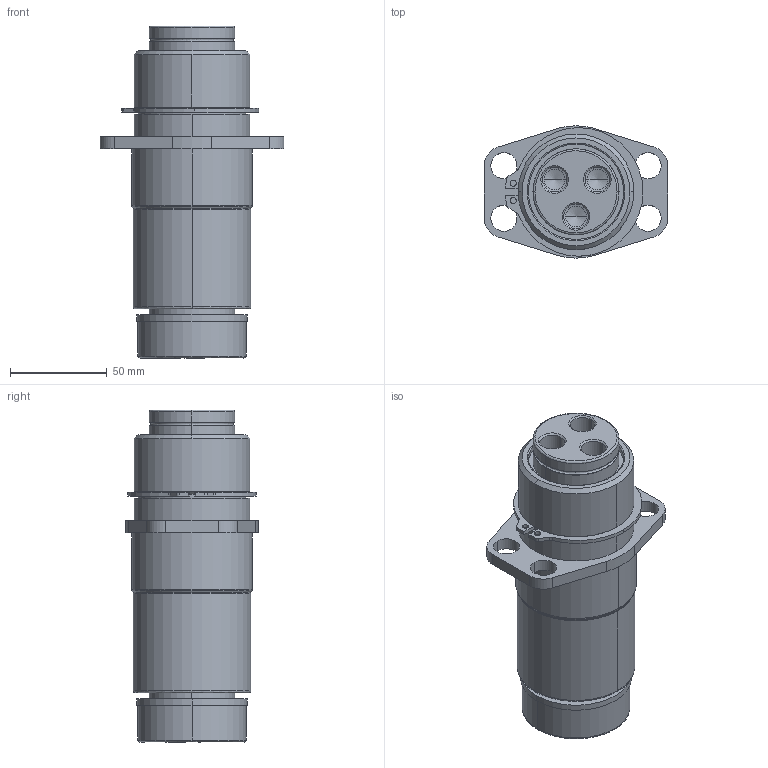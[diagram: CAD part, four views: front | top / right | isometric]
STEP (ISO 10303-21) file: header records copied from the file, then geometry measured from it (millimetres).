
FILE_DESCRIPTION (( 'STEP AP214' ), '1' );
FILE_NAME ('GK180-N5-2-TB-E-XXX.STEP', '2020-09-22T12:12:11', ( '' ), ( '' ), 'SwSTEP 2.0', 'SolidWorks 2017', '' );
FILE_SCHEMA (( 'AUTOMOTIVE_DESIGN' ));
Length unit declared in the file: inch
Products named in the file (7): GK180-DampeningWasher; GK180-E-XXX-GuidePin; RetainingRing; GK180-N5-2-TB-E-XXX; GK1.75-N5-2-TB-Base
Assembly tree (6 placements, depth 3):
  GK180-N5-2-TB-E-XXX
    GK1.75-N5-2-TB-Base
      GK1.75-N5-2-TB-Base
      RetainingRing
    GK180-E-XXX-GuidePin
      GK180-E-XXX-GuidePin
      GK180-DampeningWasher
Bounding box: 94.79 x 68.33 x 171.45 mm (x, y, z)
Volume: 462622.3 mm3; surface area: 91335.7 mm2
Topology: 4 solids, 4 shells, 135 faces, 315 edges, 191 vertices
Faces by surface type: cylinder 65, plane 26, cone 24, bspline 20
Entity records: 4747 total; most frequent: CARTESIAN_POINT 1196, DIRECTION 725, ORIENTED_EDGE 618, EDGE_CURVE 309, AXIS2_PLACEMENT_3D 300, VERTEX_POINT 191, CIRCLE 174, EDGE_LOOP 160
